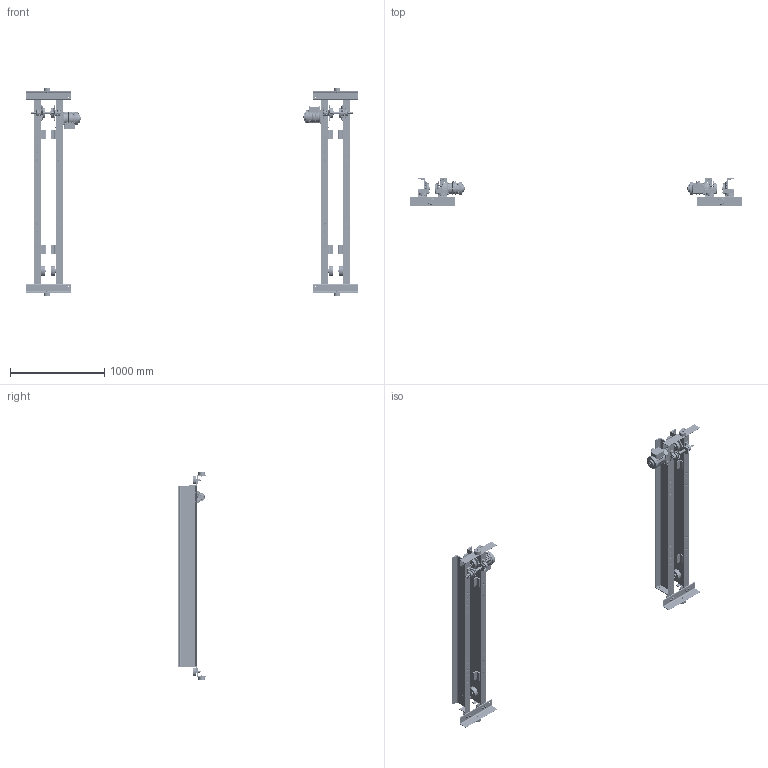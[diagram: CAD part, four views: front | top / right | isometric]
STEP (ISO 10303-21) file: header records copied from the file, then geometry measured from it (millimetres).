
FILE_DESCRIPTION (( 'STEP AP214' ), '1' );
FILE_NAME ('MUMS-3-0250.STEP', '2026-08-18T12:48:18', ( '' ), ( '' ), 'SwSTEP 2.0', 'SolidWorks 2026', '' );
FILE_SCHEMA (( 'AUTOMOTIVE_DESIGN' ));
Length unit declared in the file: inch
Products named in the file (79): 9091250_9091250; N6QL5101101; 62379_62379-1; MUMS-3-0250; 62374_62374-1; 6232803_6232803; 9093101_9093101; 9093354_9093354; 62378_62378-1; 62377_62377-1; 6232301; 9047130_9047130; 6257004; MS555010_MS555010; 9093427_9093427; G1CM025S_ROTATED 180 DEGREES; 9012712_9012712; G1JE025S9310; 9000605; 6233203; N6QL210209; 62587; G1JE025S9401; G1JE025S9609; 9093146_9093146; 9012707_9012707; N6QL210207; N6QO3101108_N6QO3101108; 6234701X_6234701B; N6QL210114; 6232401; MC08-018.7_75; 9012514_9012514; N6QL210113; 6232601_6232601; 9047252_9047252; 9091273_9091273; 9093433_9093433; 9043411; G1JE025S9603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
Assembly tree (355 placements, depth 4):
  MUMS-3-0250
    62378_62378-1  x2
      62375_62375-1
        MC08-018.7_75
        6232803_6232803
        6232803_6232803
      6232301
      6232304
      5204405_5204405
      6233203
    62377_62377-1
      62374_62374-1
        MC08-018.7_75
        6232803_6232803
        6232803_6232803
      6232301  x2
      6232304  x2
      5204405_5204405  x2
      6233203  x2
      6257004
    62379_62379-1
      62376_62376-1
        MC08-018.7_75
        6232803_6232803
        6232803_6232803
      6232301  x2
      6232304  x2
      5204405_5204405  x2
      6233203  x2
      6257004
    6234701X_6234701B  x2
    6234702X_6234702B  x2
    N6QL210207  x4
    9012514_9012514  x12
    9093101_9093101  x4
    9093424_9093424  x8
    N6QO3101108_N6QO3101108  x8
      N6QO310E9108_N6QO3101108 DOMESTIC
      9047252_9047252
      9000605
    6232404  x8
    9047125_B27.7M - 3AM1-23  x8
    9012515_9012515  x16
    9093433_9093433  x32
    9093146_9093146  x8
    6234501  x4
      6232601_6232601
      9000606
      9047262_B27.7M - 3BM1-62
    6232401  x8
    9047130_9047130  x8
    N6QL5101101  x4
      N6QL510E9101_Domestic
      9000606
      9047262_B27.7M - 3BM1-62
    N6QL210116  x4
    9012712_9012712  x8
    9043411  x8
    9093354_9093354  x8
    9093427_9093427  x8
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Bounding box: 3519.98 x 292.1 x 2211.61 mm (x, y, z)
Volume: 42739511.8 mm3; surface area: 9063029.6 mm2
Topology: 374 solids, 470 shells, 25528 faces, 65974 edges, 42442 vertices
Faces by surface type: plane 12374, cylinder 5744, bspline 3746, cone 2610, torus 868, sphere 186
Entity records: 216070 total; most frequent: CARTESIAN_POINT 91335, ORIENTED_EDGE 25866, DIRECTION 23327, EDGE_CURVE 12937, AXIS2_PLACEMENT_3D 8991, VERTEX_POINT 8239, EDGE_LOOP 5554, LINE 5345
